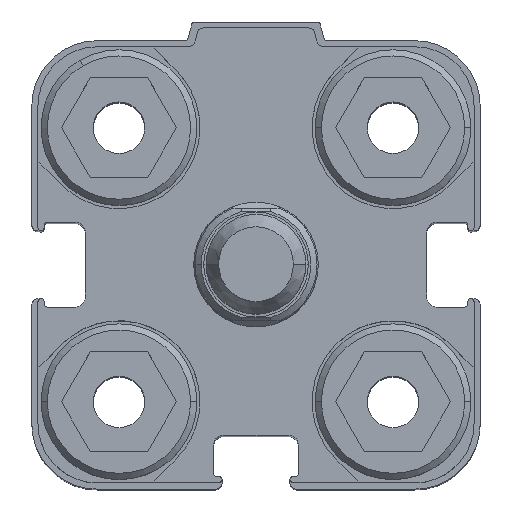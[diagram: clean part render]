
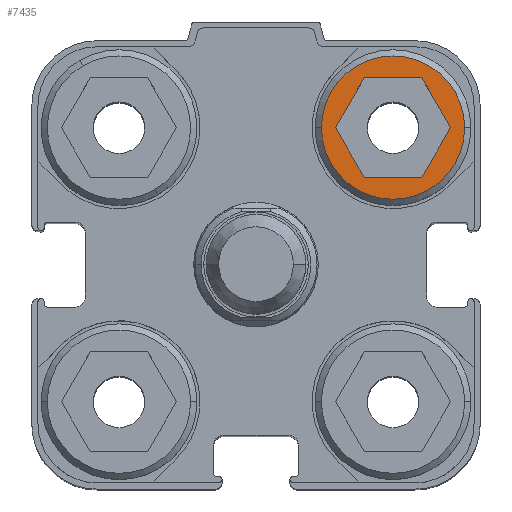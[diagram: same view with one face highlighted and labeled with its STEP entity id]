
A CAD part, top view. The second image highlights one B-rep face of the part: STEP entity #7435.
In plain terms, the highlighted planar face has unit normal (0, 0, 1).
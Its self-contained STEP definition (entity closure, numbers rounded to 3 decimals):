
#159 = CARTESIAN_POINT ( 'NONE',  ( 11., 11., 50.3 ) ) ;
#160 = DIRECTION ( 'NONE',  ( 0., 0., 1. ) ) ;
#161 = DIRECTION ( 'NONE',  ( 1., 0., 0. ) ) ;
#473 = VERTEX_POINT ( 'NONE', #8317 ) ;
#481 = VERTEX_POINT ( 'NONE', #1148 ) ;
#946 = EDGE_CURVE ( 'NONE', #481, #473, #3104, .T. ) ;
#961 = EDGE_LOOP ( 'NONE', ( #7084, #7085, #7086, #7087, #7088, #7089 ) ) ;
#967 = EDGE_LOOP ( 'NONE', ( #7082, #7083 ) ) ;
#1148 = CARTESIAN_POINT ( 'NONE',  ( 5.25, 11., 50.3 ) ) ;
#1668 = AXIS2_PLACEMENT_3D ( 'NONE', #2000, #2001, #2002 ) ;
#1995 = DIRECTION ( 'NONE',  ( -0.5, -0.866, 0. ) ) ;
#1997 = CARTESIAN_POINT ( 'NONE',  ( 8.691, 15., 50.3 ) ) ;
#1998 = CARTESIAN_POINT ( 'NONE',  ( 15.619, 11., 50.3 ) ) ;
#1999 = CARTESIAN_POINT ( 'NONE',  ( 13.309, 15., 50.3 ) ) ;
#2000 = CARTESIAN_POINT ( 'NONE',  ( 11., 11., 50.3 ) ) ;
#2001 = DIRECTION ( 'NONE',  ( 0., 0., 1. ) ) ;
#2002 = DIRECTION ( 'NONE',  ( 1., 0., 0. ) ) ;
#2003 = CARTESIAN_POINT ( 'NONE',  ( 13.309, 7., 50.3 ) ) ;
#2004 = DIRECTION ( 'NONE',  ( -1., 0., 0. ) ) ;
#2005 = CARTESIAN_POINT ( 'NONE',  ( 8.691, 7., 50.3 ) ) ;
#2006 = DIRECTION ( 'NONE',  ( -0.5, 0.866, 0. ) ) ;
#2007 = CARTESIAN_POINT ( 'NONE',  ( 6.381, 11., 50.3 ) ) ;
#2008 = DIRECTION ( 'NONE',  ( 0.5, 0.866, 0. ) ) ;
#2009 = DIRECTION ( 'NONE',  ( 1., 0., 0. ) ) ;
#2010 = DIRECTION ( 'NONE',  ( 0.5, -0.866, 0. ) ) ;
#2739 = VERTEX_POINT ( 'NONE', #5988 ) ;
#2741 = VERTEX_POINT ( 'NONE', #5990 ) ;
#2742 = VERTEX_POINT ( 'NONE', #5991 ) ;
#2744 = VERTEX_POINT ( 'NONE', #5993 ) ;
#2749 = VERTEX_POINT ( 'NONE', #5998 ) ;
#2750 = VERTEX_POINT ( 'NONE', #5999 ) ;
#3104 = CIRCLE ( 'NONE', #5362, 5.75 ) ;
#5362 = AXIS2_PLACEMENT_3D ( 'NONE', #159, #160, #161 ) ;
#5930 = AXIS2_PLACEMENT_3D ( 'NONE', #10604, #10613, #10614 ) ;
#5988 = CARTESIAN_POINT ( 'NONE',  ( 8.691, 15., 50.3 ) ) ;
#5990 = CARTESIAN_POINT ( 'NONE',  ( 13.309, 15., 50.3 ) ) ;
#5991 = CARTESIAN_POINT ( 'NONE',  ( 8.691, 7., 50.3 ) ) ;
#5993 = CARTESIAN_POINT ( 'NONE',  ( 13.309, 7., 50.3 ) ) ;
#5998 = CARTESIAN_POINT ( 'NONE',  ( 6.381, 11., 50.3 ) ) ;
#5999 = CARTESIAN_POINT ( 'NONE',  ( 15.619, 11., 50.3 ) ) ;
#7082 = ORIENTED_EDGE ( 'NONE', *, *, #7523, .T. ) ;
#7083 = ORIENTED_EDGE ( 'NONE', *, *, #946, .T. ) ;
#7084 = ORIENTED_EDGE ( 'NONE', *, *, #7524, .F. ) ;
#7085 = ORIENTED_EDGE ( 'NONE', *, *, #7525, .F. ) ;
#7086 = ORIENTED_EDGE ( 'NONE', *, *, #7526, .F. ) ;
#7087 = ORIENTED_EDGE ( 'NONE', *, *, #7527, .F. ) ;
#7088 = ORIENTED_EDGE ( 'NONE', *, *, #7528, .F. ) ;
#7089 = ORIENTED_EDGE ( 'NONE', *, *, #7529, .F. ) ;
#7435 = ADVANCED_FACE ( 'NONE', ( #9995, #9998 ), #10608, .F. ) ;
#7523 = EDGE_CURVE ( 'NONE', #473, #481, #10139, .T. ) ;
#7524 = EDGE_CURVE ( 'NONE', #2739, #2749, #10143, .T. ) ;
#7525 = EDGE_CURVE ( 'NONE', #2741, #2739, #10141, .T. ) ;
#7526 = EDGE_CURVE ( 'NONE', #2750, #2741, #10144, .T. ) ;
#7527 = EDGE_CURVE ( 'NONE', #2744, #2750, #10146, .T. ) ;
#7528 = EDGE_CURVE ( 'NONE', #2742, #2744, #10148, .T. ) ;
#7529 = EDGE_CURVE ( 'NONE', #2749, #2742, #10150, .T. ) ;
#8317 = CARTESIAN_POINT ( 'NONE',  ( 16.75, 11., 50.3 ) ) ;
#9995 = FACE_OUTER_BOUND ( 'NONE', #967, .T. ) ;
#9998 = FACE_BOUND ( 'NONE', #961, .T. ) ;
#10139 = CIRCLE ( 'NONE', #1668, 5.75 ) ;
#10141 = LINE ( 'NONE', #1999, #10147 ) ;
#10143 = LINE ( 'NONE', #1997, #10145 ) ;
#10144 = LINE ( 'NONE', #1998, #10149 ) ;
#10145 = VECTOR ( 'NONE', #1995, 1000. ) ;
#10146 = LINE ( 'NONE', #2003, #10151 ) ;
#10147 = VECTOR ( 'NONE', #2004, 1000. ) ;
#10148 = LINE ( 'NONE', #2005, #10153 ) ;
#10149 = VECTOR ( 'NONE', #2006, 1000. ) ;
#10150 = LINE ( 'NONE', #2007, #10155 ) ;
#10151 = VECTOR ( 'NONE', #2008, 1000. ) ;
#10153 = VECTOR ( 'NONE', #2009, 1000. ) ;
#10155 = VECTOR ( 'NONE', #2010, 1000. ) ;
#10604 = CARTESIAN_POINT ( 'NONE',  ( 11., 11., 50.3 ) ) ;
#10608 = PLANE ( 'NONE',  #5930 ) ;
#10613 = DIRECTION ( 'NONE',  ( 0., 0., -1. ) ) ;
#10614 = DIRECTION ( 'NONE',  ( 1., 0., 0. ) ) ;
